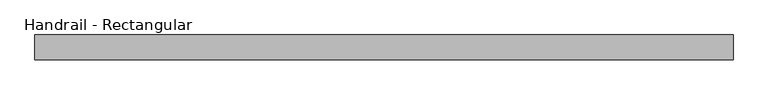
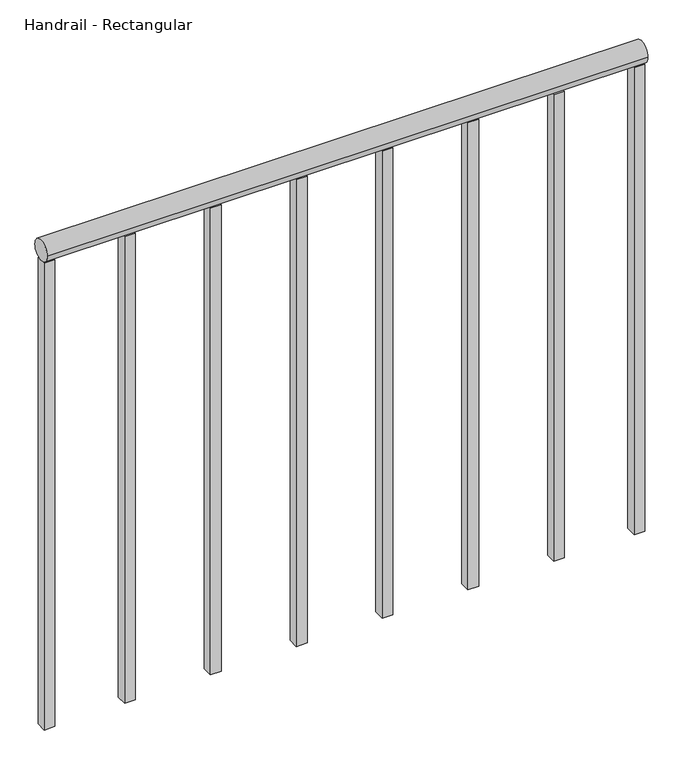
"""IFC4 building model written with IfcOpenShell, lengths in millimetres: railing geometry, Handrail - Rectangular."""

from ifc_helpers import new_model, si_unit, point, frame, frame_2d, origin, place, context, project, spatial, polyline, circle_curve, trimmed, segment, composite_curve, outline, extrude, source, transform, mapped, element, save


def handrail_rectangular_93dca39f(model_context):
    return source(origin(), model_context, "Body", "SweptSolid", [
        extrude(outline(composite_curve([segment(trimmed(circle_curve(frame_2d((11944.8316867, 3943.35)), 19.05), [point((11963.8816867, 3943.35))], [point((11925.7816867, 3943.35))], False, "CARTESIAN"), True, "CONTINUOUS"), segment(trimmed(circle_curve(frame_2d((11944.8316867, 3943.35)), 19.05), [point((11925.7816867, 3943.35))], [point((11963.8816867, 3943.35))], False, "CARTESIAN"), True, "CONTINUOUS")], self_intersect=False)), frame((1027.1410437, 0.0, 0.0), z_axis=(1.0, 0.0, 0.0), x_axis=(0.0, 1.0, 0.0)), (0.0, 0.0, 1.0), 1066.8),
        extrude(outline(polyline([(1932.0160437, 11935.3066867), (1932.0160437, 11954.3566867), (1951.0660437, 11954.3566867), (1951.0660437, 11935.3066867), (1932.0160437, 11935.3066867)])), frame((0.0, 0.0, 3048.0), z_axis=(0.0, 0.0, 1.0), x_axis=(1.0, 0.0, 0.0)), (0.0, 0.0, 1.0), 876.3),
        extrude(outline(polyline([(1779.6160437, 11935.3066867), (1779.6160437, 11954.3566867), (1798.6660437, 11954.3566867), (1798.6660437, 11935.3066867), (1779.6160437, 11935.3066867)])), frame((0.0, 0.0, 3048.0), z_axis=(0.0, 0.0, 1.0), x_axis=(1.0, 0.0, 0.0)), (0.0, 0.0, 1.0), 876.3),
        extrude(outline(polyline([(1627.2160437, 11935.3066867), (1627.2160437, 11954.3566867), (1646.2660437, 11954.3566867), (1646.2660437, 11935.3066867), (1627.2160437, 11935.3066867)])), frame((0.0, 0.0, 3048.0), z_axis=(0.0, 0.0, 1.0), x_axis=(1.0, 0.0, 0.0)), (0.0, 0.0, 1.0), 876.3),
        extrude(outline(polyline([(1474.8160437, 11935.3066867), (1474.8160437, 11954.3566867), (1493.8660437, 11954.3566867), (1493.8660437, 11935.3066867), (1474.8160437, 11935.3066867)])), frame((0.0, 0.0, 3048.0), z_axis=(0.0, 0.0, 1.0), x_axis=(1.0, 0.0, 0.0)), (0.0, 0.0, 1.0), 876.3),
        extrude(outline(polyline([(1322.4160437, 11935.3066867), (1322.4160437, 11954.3566867), (1341.4660437, 11954.3566867), (1341.4660437, 11935.3066867), (1322.4160437, 11935.3066867)])), frame((0.0, 0.0, 3048.0), z_axis=(0.0, 0.0, 1.0), x_axis=(1.0, 0.0, 0.0)), (0.0, 0.0, 1.0), 876.3),
        extrude(outline(polyline([(1170.0160437, 11935.3066867), (1170.0160437, 11954.3566867), (1189.0660437, 11954.3566867), (1189.0660437, 11935.3066867), (1170.0160437, 11935.3066867)])), frame((0.0, 0.0, 3048.0), z_axis=(0.0, 0.0, 1.0), x_axis=(1.0, 0.0, 0.0)), (0.0, 0.0, 1.0), 876.3),
        extrude(outline(polyline([(2074.8910437, 11935.3066867), (2074.8910437, 11954.3566867), (2093.9410437, 11954.3566867), (2093.9410437, 11935.3066867), (2074.8910437, 11935.3066867)])), frame((0.0, 0.0, 3048.0), z_axis=(0.0, 0.0, 1.0), x_axis=(1.0, 0.0, 0.0)), (0.0, 0.0, 1.0), 876.3),
        extrude(outline(polyline([(1027.1410437, 11935.3066867), (1027.1410437, 11954.3566867), (1046.1910437, 11954.3566867), (1046.1910437, 11935.3066867), (1027.1410437, 11935.3066867)])), frame((0.0, 0.0, 3048.0), z_axis=(0.0, 0.0, 1.0), x_axis=(1.0, 0.0, 0.0)), (0.0, 0.0, 1.0), 876.3),
    ])


if __name__ == "__main__":
    model = new_model("IFC4")
    model_context = context("Model", 3, world=origin())
    ifc_project = project(units=[si_unit("LENGTHUNIT", "METRE", prefix="MILLI")], contexts=[model_context])
    site = spatial("IfcSite", under=ifc_project)
    building = spatial("IfcBuilding", under=site)
    placement = place(None, origin())
    handrail_rectangular_shape = handrail_rectangular_93dca39f(model_context)
    element("IfcRailing", 1, ObjectType="Handrail - Rectangular", at=placement, inside=building, context=model_context, shape_type="MappedRepresentation", body=[
        mapped(handrail_rectangular_shape, transform((0.0, 0.0, 0.0), x_axis=(1.0, 0.0, 0.0), y_axis=(0.0, 1.0, 0.0), z_axis=(0.0, 0.0, 1.0))),
    ])
    save(model, "model.ifc")
